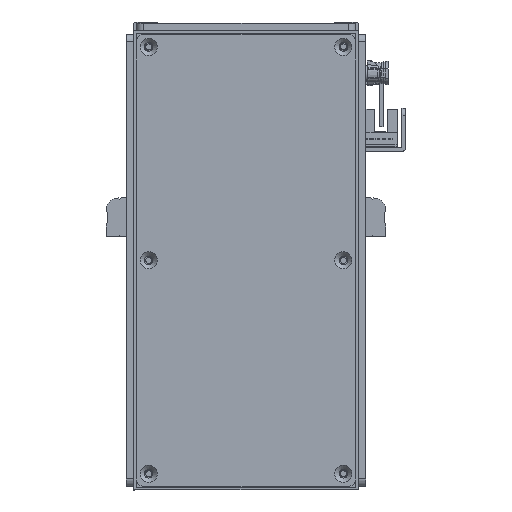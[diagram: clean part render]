
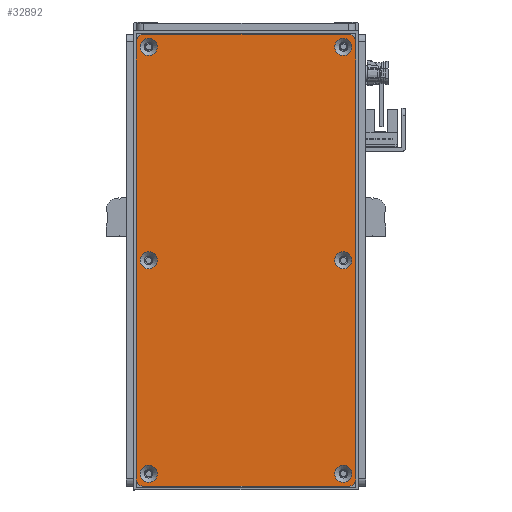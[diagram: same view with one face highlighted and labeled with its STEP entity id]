
A CAD part, front view. The second image highlights one B-rep face of the part: STEP entity #32892.
In plain terms, the highlighted planar face has unit normal (0, -1, 0) as drawn and (0, 0, 1) by its records, which use the part's own axes.
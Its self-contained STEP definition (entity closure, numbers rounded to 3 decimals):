
#4495=FACE_BOUND('',#7992,.T.);
#4496=FACE_BOUND('',#7993,.T.);
#4497=FACE_BOUND('',#7994,.T.);
#4498=FACE_BOUND('',#7995,.T.);
#4499=FACE_BOUND('',#7996,.T.);
#4500=FACE_BOUND('',#7997,.T.);
#6017=FACE_OUTER_BOUND('',#7991,.T.);
#7991=EDGE_LOOP('',(#29984,#29985,#29986,#29987,#29988,#29989,#29990,#29991));
#7992=EDGE_LOOP('',(#29992));
#7993=EDGE_LOOP('',(#29993));
#7994=EDGE_LOOP('',(#29994));
#7995=EDGE_LOOP('',(#29995));
#7996=EDGE_LOOP('',(#29996));
#7997=EDGE_LOOP('',(#29997));
#9595=CIRCLE('',#37086,3.45);
#9598=CIRCLE('',#37091,3.45);
#9601=CIRCLE('',#37096,3.45);
#9604=CIRCLE('',#37101,3.45);
#9607=CIRCLE('',#37106,3.45);
#9610=CIRCLE('',#37111,3.45);
#9617=CIRCLE('',#37121,3.);
#9618=CIRCLE('',#37124,3.);
#9619=CIRCLE('',#37127,3.);
#9620=CIRCLE('',#37130,3.);
#12126=LINE('',#57879,#14745);
#12129=LINE('',#57887,#14748);
#12132=LINE('',#57895,#14751);
#12135=LINE('',#57902,#14754);
#14745=VECTOR('',#46000,10.);
#14748=VECTOR('',#46009,10.);
#14751=VECTOR('',#46018,10.);
#14754=VECTOR('',#46027,10.);
#17579=VERTEX_POINT('',#57795);
#17582=VERTEX_POINT('',#57805);
#17585=VERTEX_POINT('',#57815);
#17588=VERTEX_POINT('',#57825);
#17591=VERTEX_POINT('',#57835);
#17594=VERTEX_POINT('',#57845);
#17605=VERTEX_POINT('',#57872);
#17606=VERTEX_POINT('',#57874);
#17607=VERTEX_POINT('',#57878);
#17608=VERTEX_POINT('',#57882);
#17609=VERTEX_POINT('',#57886);
#17610=VERTEX_POINT('',#57890);
#17611=VERTEX_POINT('',#57894);
#17612=VERTEX_POINT('',#57898);
#21720=EDGE_CURVE('',#17579,#17579,#9595,.T.);
#21725=EDGE_CURVE('',#17582,#17582,#9598,.T.);
#21730=EDGE_CURVE('',#17585,#17585,#9601,.T.);
#21735=EDGE_CURVE('',#17588,#17588,#9604,.T.);
#21740=EDGE_CURVE('',#17591,#17591,#9607,.T.);
#21745=EDGE_CURVE('',#17594,#17594,#9610,.T.);
#21759=EDGE_CURVE('',#17606,#17605,#9617,.T.);
#21761=EDGE_CURVE('',#17607,#17606,#12126,.T.);
#21763=EDGE_CURVE('',#17608,#17607,#9618,.T.);
#21765=EDGE_CURVE('',#17609,#17608,#12129,.T.);
#21767=EDGE_CURVE('',#17610,#17609,#9619,.T.);
#21769=EDGE_CURVE('',#17611,#17610,#12132,.T.);
#21771=EDGE_CURVE('',#17612,#17611,#9620,.T.);
#21773=EDGE_CURVE('',#17605,#17612,#12135,.T.);
#29984=ORIENTED_EDGE('',*,*,#21773,.T.);
#29985=ORIENTED_EDGE('',*,*,#21771,.T.);
#29986=ORIENTED_EDGE('',*,*,#21769,.T.);
#29987=ORIENTED_EDGE('',*,*,#21767,.T.);
#29988=ORIENTED_EDGE('',*,*,#21765,.T.);
#29989=ORIENTED_EDGE('',*,*,#21763,.T.);
#29990=ORIENTED_EDGE('',*,*,#21761,.T.);
#29991=ORIENTED_EDGE('',*,*,#21759,.T.);
#29992=ORIENTED_EDGE('',*,*,#21720,.T.);
#29993=ORIENTED_EDGE('',*,*,#21725,.T.);
#29994=ORIENTED_EDGE('',*,*,#21730,.T.);
#29995=ORIENTED_EDGE('',*,*,#21735,.T.);
#29996=ORIENTED_EDGE('',*,*,#21740,.T.);
#29997=ORIENTED_EDGE('',*,*,#21745,.T.);
#31363=PLANE('',#37132);
#32892=ADVANCED_FACE('',(#6017,#4495,#4496,#4497,#4498,#4499,#4500),#31363,
 .T.);
#37086=AXIS2_PLACEMENT_3D('',#57796,#45908,#45909);
#37091=AXIS2_PLACEMENT_3D('',#57806,#45920,#45921);
#37096=AXIS2_PLACEMENT_3D('',#57816,#45932,#45933);
#37101=AXIS2_PLACEMENT_3D('',#57826,#45944,#45945);
#37106=AXIS2_PLACEMENT_3D('',#57836,#45956,#45957);
#37111=AXIS2_PLACEMENT_3D('',#57846,#45968,#45969);
#37121=AXIS2_PLACEMENT_3D('',#57875,#45995,#45996);
#37124=AXIS2_PLACEMENT_3D('',#57883,#46004,#46005);
#37127=AXIS2_PLACEMENT_3D('',#57891,#46013,#46014);
#37130=AXIS2_PLACEMENT_3D('',#57899,#46022,#46023);
#37132=AXIS2_PLACEMENT_3D('',#57903,#46028,#46029);
#45908=DIRECTION('center_axis',(0.,0.,-1.));
#45909=DIRECTION('ref_axis',(1.,0.,0.));
#45920=DIRECTION('center_axis',(0.,0.,-1.));
#45921=DIRECTION('ref_axis',(1.,0.,0.));
#45932=DIRECTION('center_axis',(0.,0.,-1.));
#45933=DIRECTION('ref_axis',(1.,0.,0.));
#45944=DIRECTION('center_axis',(0.,0.,-1.));
#45945=DIRECTION('ref_axis',(1.,0.,0.));
#45956=DIRECTION('center_axis',(0.,0.,-1.));
#45957=DIRECTION('ref_axis',(1.,0.,0.));
#45968=DIRECTION('center_axis',(0.,0.,-1.));
#45969=DIRECTION('ref_axis',(1.,0.,0.));
#45995=DIRECTION('center_axis',(0.,0.,1.));
#45996=DIRECTION('ref_axis',(0.,1.,0.));
#46000=DIRECTION('',(-1.,0.,0.));
#46004=DIRECTION('center_axis',(0.,0.,1.));
#46005=DIRECTION('ref_axis',(1.,0.,0.));
#46009=DIRECTION('',(0.,1.,0.));
#46013=DIRECTION('center_axis',(0.,0.,1.));
#46014=DIRECTION('ref_axis',(0.,-1.,0.));
#46018=DIRECTION('',(1.,0.,0.));
#46022=DIRECTION('center_axis',(0.,0.,1.));
#46023=DIRECTION('ref_axis',(-1.,0.,0.));
#46027=DIRECTION('',(0.,-1.,0.));
#46028=DIRECTION('center_axis',(0.,0.,1.));
#46029=DIRECTION('ref_axis',(1.,0.,0.));
#57795=CARTESIAN_POINT('',(-3.45,39.,1.5));
#57796=CARTESIAN_POINT('Origin',(0.,39.,1.5));
#57805=CARTESIAN_POINT('',(82.05,-39.,1.5));
#57806=CARTESIAN_POINT('Origin',(85.5,-39.,1.5));
#57815=CARTESIAN_POINT('',(-88.95,39.,1.5));
#57816=CARTESIAN_POINT('Origin',(-85.5,39.,1.5));
#57825=CARTESIAN_POINT('',(82.05,39.,1.5));
#57826=CARTESIAN_POINT('Origin',(85.5,39.,1.5));
#57835=CARTESIAN_POINT('',(-88.95,-39.,1.5));
#57836=CARTESIAN_POINT('Origin',(-85.5,-39.,1.5));
#57845=CARTESIAN_POINT('',(-3.45,-39.,1.5));
#57846=CARTESIAN_POINT('Origin',(0.,-39.,1.5));
#57872=CARTESIAN_POINT('',(-90.5,41.,1.5));
#57874=CARTESIAN_POINT('',(-87.5,44.,1.5));
#57875=CARTESIAN_POINT('Origin',(-87.5,41.,1.5));
#57878=CARTESIAN_POINT('',(87.5,44.,1.5));
#57879=CARTESIAN_POINT('',(87.5,44.,1.5));
#57882=CARTESIAN_POINT('',(90.5,41.,1.5));
#57883=CARTESIAN_POINT('Origin',(87.5,41.,1.5));
#57886=CARTESIAN_POINT('',(90.5,-41.,1.5));
#57887=CARTESIAN_POINT('',(90.5,-41.,1.5));
#57890=CARTESIAN_POINT('',(87.5,-44.,1.5));
#57891=CARTESIAN_POINT('Origin',(87.5,-41.,1.5));
#57894=CARTESIAN_POINT('',(-87.5,-44.,1.5));
#57895=CARTESIAN_POINT('',(-87.5,-44.,1.5));
#57898=CARTESIAN_POINT('',(-90.5,-41.,1.5));
#57899=CARTESIAN_POINT('Origin',(-87.5,-41.,1.5));
#57902=CARTESIAN_POINT('',(-90.5,41.,1.5));
#57903=CARTESIAN_POINT('Origin',(0.,0.,
1.5));
